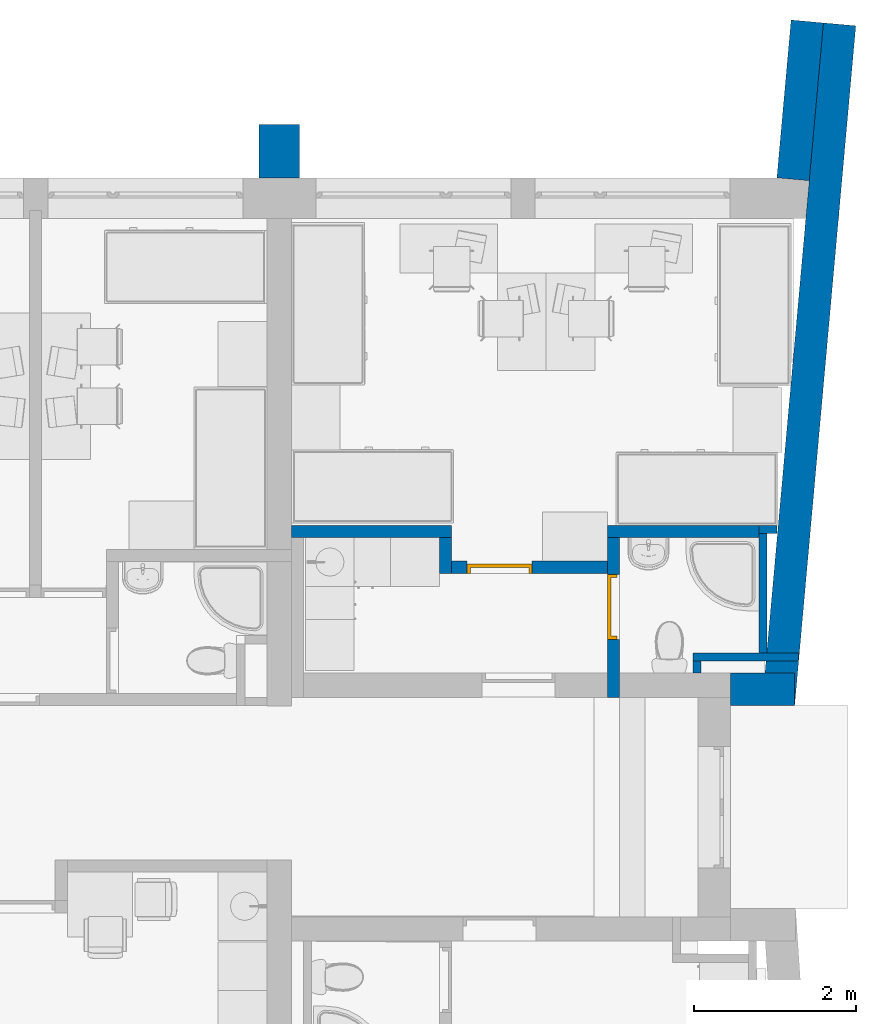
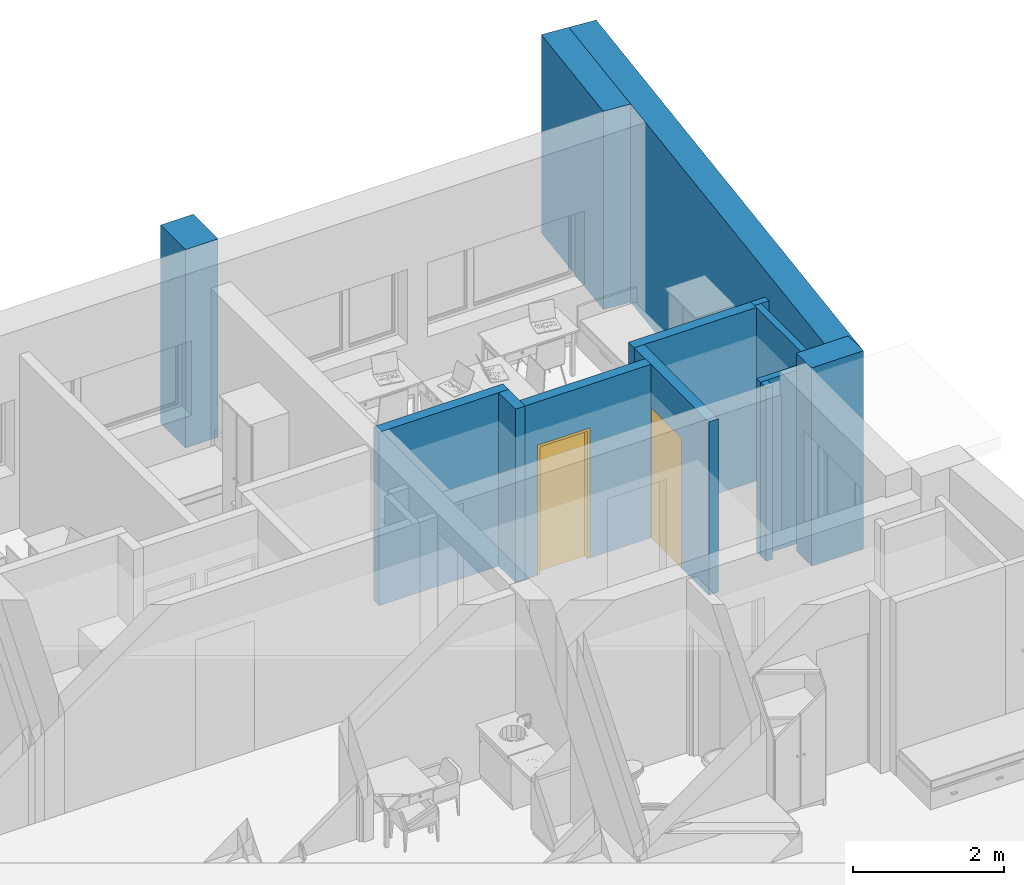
# One storey, part 20 of 165: 13 walls, 2 doors, 2 openings.
"""IFC2X3 building model written with IfcOpenShell, lengths in millimetres."""

from ifc_helpers import new_model, entity, si_unit, converted_unit, money_unit, direction, frame, origin_with_axes, place, context, subcontext, project, spatial, polyline, outline, extrude, faceted_brep, source, transform, mapped, material, material_list, layer, layer_set, layer_usage, type_object, element, fill, save


model = new_model("IFC2X3")

# Units and contexts
model_context = context("Model", 3, precision=1e-05, world=origin_with_axes(), true_north=direction((0.0, 1.0)))
body_context = subcontext(model_context, "Body", "Model", "MODEL_VIEW")
ifc_project = project(units=[si_unit("LENGTHUNIT", "METRE", prefix="MILLI"), si_unit("AREAUNIT", "SQUARE_METRE"), si_unit("VOLUMEUNIT", "CUBIC_METRE"), converted_unit("PLANEANGLEUNIT", "DEGREE", entity("IfcPlaneAngleMeasure", 0.0174532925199), si_unit("PLANEANGLEUNIT", "RADIAN"), dimensions=[0, 0, 0, 0, 0, 0, 0]), si_unit("SOLIDANGLEUNIT", "STERADIAN"), money_unit("USD"), converted_unit("TIMEUNIT", "Year", entity("IfcTimeMeasure", 31556926.0), si_unit("TIMEUNIT", "SECOND"), dimensions=[0, 0, 0, 0, 0, 0, 0]), si_unit("MASSUNIT", "GRAM"), si_unit("THERMODYNAMICTEMPERATUREUNIT", "DEGREE_CELSIUS"), si_unit("LUMINOUSINTENSITYUNIT", "LUMEN")], contexts=[model_context])

# Site, building, storey
site_placement = place(None, origin_with_axes())
site = spatial("IfcSite", under=ifc_project, at=site_placement, Name="Site", CompositionType="ELEMENT")
building_placement = place(site_placement, origin_with_axes())
building = spatial("IfcBuilding", under=site, at=building_placement, Name="Building", CompositionType="ELEMENT")
storey_placement = place(building_placement, frame((0.0, 0.0, 6300.0), z_axis=(0.0, 0.0, 1.0), x_axis=(1.0, 0.0, 0.0)))
storey = spatial("IfcBuildingStorey", under=building, at=storey_placement, Name="4KORRUS", CompositionType="ELEMENT", Elevation=6300.0)

# Walls
ifc_material_1 = material(Name="Olemasolevad seinad tellis, uus viimistlus")
ifc_layer_1 = layer(ifc_material_1, 400.0, ventilated="UNKNOWN")
ifc_layer_set_1 = layer_set([ifc_layer_1], Name="Olemasolevad seinad tellis, uus viimistlus 400")
ifc_layer_usage_1 = layer_usage(ifc_layer_set_1, "AXIS2", "POSITIVE", -400.0)
wall_type_1 = type_object("IfcWallType", Name="Olemasolevad seinad tellis, uus viimistlus 400", PredefinedType="NOTDEFINED")
wall_1_placement = place(storey_placement, frame((17988.7454058, -4639.6041088, 0.0), z_axis=(0.0, 0.0, 1.0), x_axis=(0.0895981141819, 0.995978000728, 0.0)))
element("IfcWallStandardCase", 1, at=wall_1_placement, inside=storey, type_object=wall_type_1, material=ifc_layer_usage_1, Name="VS1", ObjectType="VS1", context=body_context, shape_type="SweptSolid", body=[
    extrude(outline(polyline([(0.0, -400.0), (1950.69331637, -400.0), (1950.69331637, 0.0), (0.0, 0.0), (0.0, -400.0)])), origin_with_axes(), (0.0, 0.0, 1.0), 3200.0),
])
ifc_layer_usage_2 = layer_usage(ifc_layer_set_1, "AXIS2", "POSITIVE", 0.0)
wall_2_placement = place(storey_placement, frame((18207.2364344, -11139.6041088, 0.0), z_axis=(0.0, 0.0, 1.0), x_axis=(0.0895981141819, 0.995978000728, 0.0)))
element("IfcWallStandardCase", 2, at=wall_2_placement, inside=storey, type_object=wall_type_1, material=ifc_layer_usage_2, Name="VS1", ObjectType="VS1", context=body_context, shape_type="SweptSolid", body=[
    extrude(outline(polyline([(0.0, 0.0), (8404.97393698, 0.0), (8404.97393698, 400.0), (0.0, 400.0), (0.0, 0.0)])), origin_with_axes(), (0.0, 0.0, 1.0), 3200.0),
])
ifc_layer_usage_3 = layer_usage(ifc_layer_set_1, "AXIS2", "POSITIVE", -400.0)
wall_3_placement = place(storey_placement, frame((18207.2364344, -11139.6041088, 0.0), z_axis=(0.0, 0.0, 1.0), x_axis=(-1.0, 0.0, 0.0)))
element("IfcWallStandardCase", 3, at=wall_3_placement, inside=storey, type_object=wall_type_1, material=ifc_layer_usage_3, Name="VS1", ObjectType="VS1", context=body_context, shape_type="SweptSolid", body=[
    extrude(outline(polyline([(0.0, -400.0), (792.056464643, -400.0), (792.056464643, 0.0), (0.0, 0.0), (0.0, -400.0)])), origin_with_axes(), (0.0, 0.0, 1.0), 3200.0),
])
ifc_layer_2 = layer(ifc_material_1, 500.0, ventilated="UNKNOWN")
ifc_layer_set_2 = layer_set([ifc_layer_2], Name="Olemasolevad seinad tellis, uus viimistlus 500")
ifc_layer_usage_4 = layer_usage(ifc_layer_set_2, "AXIS2", "POSITIVE", -100.0)
wall_type_2 = type_object("IfcWallType", Name="Olemasolevad seinad tellis, uus viimistlus 500", PredefinedType="NOTDEFINED")
wall_4_placement = place(storey_placement, frame((12009.7032967, -4639.6041088, 0.0), z_axis=(0.0, 0.0, 1.0), x_axis=(0.0, 1.0, 0.0)))
element("IfcWallStandardCase", 4, at=wall_4_placement, inside=storey, type_object=wall_type_2, material=ifc_layer_usage_4, Name="VS1", ObjectType="VS1", context=body_context, shape_type="SweptSolid", body=[
    extrude(outline(polyline([(0.0, -100.0), (657.402041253, -100.0), (657.402041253, 400.0), (0.0, 400.0), (0.0, -100.0)])), origin_with_axes(), (0.0, 0.0, 1.0), 3200.0),
])

# Wall, opening, door
ifc_material_2 = material(Name="UmbKipsplaat")
ifc_layer_3 = layer(ifc_material_2, 13.0, ventilated="UNKNOWN")
ifc_layer_4 = layer(ifc_material_2, 13.0, ventilated="UNKNOWN")
ifc_material_3 = material(Name="SOOJUSTUS MINERAALVILL")
ifc_layer_5 = layer(ifc_material_3, 98.0, ventilated="UNKNOWN")
ifc_layer_6 = layer(ifc_material_2, 13.0, ventilated="UNKNOWN")
ifc_layer_7 = layer(ifc_material_2, 13.0, ventilated="UNKNOWN")
ifc_layer_set_3 = layer_set([ifc_layer_3, ifc_layer_4, ifc_layer_5, ifc_layer_6, ifc_layer_7], Name="kipssein150")
ifc_layer_usage_5 = layer_usage(ifc_layer_set_3, "AXIS2", "POSITIVE", 0.0)
wall_type_3 = type_object("IfcWallType", Name="kipssein150 150", PredefinedType="NOTDEFINED")
wall_5_placement = place(storey_placement, frame((13984.2564771, -9509.88464344, 0.0), z_axis=(0.0, 0.0, 1.0), x_axis=(1.0, 0.0, 0.0)))
wall_5 = element("IfcWallStandardCase", 5, at=wall_5_placement, inside=storey, type_object=wall_type_3, material=ifc_layer_usage_5, Name="SS1", ObjectType="SS1", context=body_context, shape_type="SweptSolid", body=[
    extrude(outline(polyline([(0.0, 0.0), (1919.61737332, 0.0), (1919.61737332, 150.0), (0.0, 150.0), (0.0, 0.0)])), origin_with_axes(), (0.0, 0.0, 1.0), 2800.0),
])
opening_1_placement = place(wall_5_placement, frame((589.799174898, 0.0, 0.0), z_axis=(0.0, 0.0, 1.0), x_axis=(1.0, 0.0, 0.0)))
opening_1 = element("IfcOpeningElement", 6, at=opening_1_placement, cuts=wall_5, Name="SU3-4", context=body_context, shape_type="SweptSolid", body=[
    extrude(outline(polyline([(-400.0, 0.0), (400.0, 0.0), (400.0, 2100.0), (-400.0, 2100.0), (-400.0, 0.0)])), frame((0.0, 150.0, 0.0), z_axis=(0.0, -1.0, 0.0), x_axis=(1.0, 0.0, 0.0)), (0.0, 0.0, 1.0), 450.0),
])
ifc_material_4 = material(Name="Background")
ifc_material_list = material_list([ifc_material_4])
door_style_1 = type_object("IfcDoorStyle", Name="Door 19", ConstructionType="NOTDEFINED", OperationType="SINGLE_SWING_RIGHT", ParameterTakesPrecedence=False, Sizeable=False)
shared_shape_1 = source(origin_with_axes(), body_context, "Body", "Brep", [
    faceted_brep([(-360.0, -75.0, 0.0), (-360.0, -75.0, 2060.0), (-360.0, -150.0, 2060.0), (-360.0, -150.0, 0.0), (-372.0, -75.0, 2060.0), (-372.0, -75.0, 0.0), (-372.0, -35.0, 2060.0), (-400.0, -35.0, 2060.0), (-400.0, -150.0, 2060.0), (-400.0, -150.0, 0.0), (-400.0, -35.0, 0.0), (-372.0, -35.0, 0.0)], [[[0, 1, 2, 3]], [[4, 1, 0, 5]], [[4, 6, 7, 8, 2, 1]], [[2, 8, 9, 3]], [[5, 0, 3, 9, 10, 11]], [[6, 4, 5, 11]], [[6, 11, 10, 7]], [[9, 8, 7, 10]]]),
    faceted_brep([(372.0, -75.0, 2060.0), (360.0, -75.0, 2060.0), (360.0, -150.0, 2060.0), (400.0, -150.0, 2060.0), (400.0, -35.0, 2060.0), (372.0, -35.0, 2060.0), (372.0, -75.0, 0.0), (360.0, -75.0, 0.0), (360.0, -150.0, 0.0), (400.0, -150.0, 0.0), (400.0, -35.0, 0.0), (372.0, -35.0, 0.0)], [[[0, 1, 2, 3, 4, 5]], [[1, 0, 6, 7]], [[1, 7, 8, 2]], [[2, 8, 9, 3]], [[3, 9, 10, 4]], [[11, 5, 4, 10]], [[0, 5, 11, 6]], [[6, 11, 10, 9, 8, 7]]]),
    faceted_brep([(-372.0, -35.0, 2072.0), (-372.0, -35.0, 2060.0), (-400.0, -35.0, 2060.0), (-400.0, -35.0, 2100.0), (400.0, -35.0, 2100.0), (400.0, -35.0, 2060.0), (372.0, -35.0, 2060.0), (372.0, -35.0, 2072.0), (-372.0, -75.0, 2072.0), (-372.0, -75.0, 2060.0), (-360.0, -75.0, 2060.0), (-360.0, -150.0, 2060.0), (-400.0, -150.0, 2060.0), (-400.0, -150.0, 2100.0), (400.0, -150.0, 2100.0), (400.0, -150.0, 2060.0), (372.0, -75.0, 2060.0), (360.0, -150.0, 2060.0), (360.0, -75.0, 2060.0), (372.0, -75.0, 2072.0)], [[[0, 1, 2, 3, 4, 5, 6, 7]], [[1, 0, 8, 9]], [[9, 10, 11, 12, 2, 1]], [[12, 13, 3, 2]], [[13, 14, 4, 3]], [[14, 15, 5, 4]], [[16, 6, 5, 15, 17, 18]], [[7, 6, 16, 19]], [[0, 7, 19, 8]], [[16, 18, 10, 9, 8, 19]], [[10, 18, 17, 11]], [[15, 14, 13, 12, 11, 17]]]),
    faceted_brep([(372.0, -35.0, 0.0), (372.0, -75.0, 0.0), (-372.0, -75.0, 0.0), (-372.0, -35.0, 0.0), (372.0, -35.0, 2072.0), (372.0, -75.0, 2072.0), (-372.0, -75.0, 2072.0), (-372.0, -35.0, 2072.0)], [[[0, 1, 2, 3]], [[4, 5, 1, 0]], [[1, 5, 6, 2]], [[3, 2, 6, 7]], [[0, 3, 7, 4]], [[7, 6, 5, 4]]]),
])
door_1_placement = place(opening_1_placement, frame((-400.0, 0.0, 0.0), z_axis=(0.0, 0.0, 1.0), x_axis=(1.0, 0.0, 0.0)))
door_1 = element("IfcDoor", 7, at=door_1_placement, inside=storey, type_object=door_style_1, material=ifc_material_list, Name="SU3-4", ObjectType="Toa uks", OverallHeight=2100.0, OverallWidth=800.0, context=body_context, shape_type="MappedRepresentation", body=[
    mapped(shared_shape_1, transform((400.0, 150.0, 0.0))),
])
fill(opening_1, door_1)

# Walls
ifc_layer_usage_6 = layer_usage(ifc_layer_set_3, "AXIS2", "POSITIVE", -150.0)
wall_6_placement = place(storey_placement, frame((13984.2564771, -9069.3690093, 0.0), z_axis=(0.0, 0.0, 1.0), x_axis=(-1.0, 0.0, 0.0)))
element("IfcWallStandardCase", 8, at=wall_6_placement, inside=storey, type_object=wall_type_3, material=ifc_layer_usage_6, Name="SS1", ObjectType="SS1", context=body_context, shape_type="SweptSolid", body=[
    extrude(outline(polyline([(0.0, -150.0), (1974.55318041, -150.0), (1974.55318041, 0.0), (0.0, 0.0), (0.0, -150.0)])), origin_with_axes(), (0.0, 0.0, 1.0), 2800.0),
])
ifc_layer_usage_7 = layer_usage(ifc_layer_set_3, "AXIS2", "POSITIVE", 0.0)
wall_7_placement = place(storey_placement, frame((15903.8738504, -9070.3690093, 0.0), z_axis=(0.0, 0.0, 1.0), x_axis=(1.0, 0.0, 0.0)))
element("IfcWallStandardCase", 9, at=wall_7_placement, inside=storey, type_object=wall_type_3, material=ifc_layer_usage_7, Name="SS1", ObjectType="SS1", context=body_context, shape_type="SweptSolid", body=[
    extrude(outline(polyline([(0.0, 0.0), (1862.68826182, 0.0), (1862.68826182, 150.0), (0.0, 150.0), (0.0, 0.0)])), origin_with_axes(), (0.0, 0.0, 1.0), 2800.0),
])

# Wall, opening, door
ifc_layer_usage_8 = layer_usage(ifc_layer_set_3, "AXIS2", "POSITIVE", 0.0)
wall_8_placement = place(storey_placement, frame((15903.8738504, -8933.3690093, 0.0), z_axis=(0.0, 0.0, 1.0), x_axis=(0.0, -1.0, 0.0)))
wall_8 = element("IfcWallStandardCase", 10, at=wall_8_placement, inside=storey, type_object=wall_type_3, material=ifc_layer_usage_8, Name="SS1", ObjectType="SS1", context=body_context, shape_type="SweptSolid", body=[
    extrude(outline(polyline([(0.0, 0.0), (2106.2350995, 0.0), (2106.2350995, 150.0), (0.0, 150.0), (0.0, 0.0)])), origin_with_axes(), (0.0, 0.0, 1.0), 2800.0),
])
opening_2_placement = place(wall_8_placement, frame((987.911387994, 0.0, 0.0), z_axis=(0.0, 0.0, 1.0), x_axis=(1.0, 0.0, 0.0)))
opening_2 = element("IfcOpeningElement", 11, at=opening_2_placement, cuts=wall_8, Name="SU3-3", context=body_context, shape_type="SweptSolid", body=[
    extrude(outline(polyline([(-400.0, -2100.0), (400.0, -2100.0), (400.0, 0.0), (-400.0, 0.0), (-400.0, -2100.0)])), frame((0.0, 150.0, 0.0), z_axis=(0.0, 1.0, 0.0), x_axis=(1.0, 0.0, 0.0)), (0.0, 0.0, -1.0), 450.0),
])
door_style_2 = type_object("IfcDoorStyle", Name="Door 19", ConstructionType="NOTDEFINED", OperationType="SINGLE_SWING_LEFT", ParameterTakesPrecedence=False, Sizeable=False)
shared_shape_2 = source(origin_with_axes(), body_context, "Body", "Brep", [
    faceted_brep([(360.0, -40.0, 0.0), (360.0, -115.0, 0.0), (360.0, -115.0, 2060.0), (360.0, -40.0, 2060.0), (372.0, -40.0, 0.0), (372.0, 0.0, 0.0), (400.0, 0.0, 0.0), (400.0, -115.0, 0.0), (400.0, -115.0, 2060.0), (372.0, -40.0, 2060.0), (400.0, 0.0, 2060.0), (372.0, 0.0, 2060.0)], [[[0, 1, 2, 3]], [[4, 5, 6, 7, 1, 0]], [[2, 1, 7, 8]], [[9, 3, 2, 8, 10, 11]], [[9, 4, 0, 3]], [[11, 5, 4, 9]], [[11, 10, 6, 5]], [[7, 6, 10, 8]]]),
    faceted_brep([(-372.0, -40.0, 2060.0), (-372.0, 0.0, 2060.0), (-400.0, 0.0, 2060.0), (-400.0, -115.0, 2060.0), (-360.0, -115.0, 2060.0), (-360.0, -40.0, 2060.0), (-372.0, -40.0, 0.0), (-372.0, 0.0, 0.0), (-400.0, 0.0, 0.0), (-400.0, -115.0, 0.0), (-360.0, -115.0, 0.0), (-360.0, -40.0, 0.0)], [[[0, 1, 2, 3, 4, 5]], [[0, 6, 7, 1]], [[7, 8, 2, 1]], [[3, 2, 8, 9]], [[4, 3, 9, 10]], [[5, 4, 10, 11]], [[5, 11, 6, 0]], [[6, 11, 10, 9, 8, 7]]]),
    faceted_brep([(372.0, 0.0, 2072.0), (-372.0, 0.0, 2072.0), (-372.0, 0.0, 2060.0), (-400.0, 0.0, 2060.0), (-400.0, 0.0, 2100.0), (400.0, 0.0, 2100.0), (400.0, 0.0, 2060.0), (372.0, 0.0, 2060.0), (372.0, -40.0, 2072.0), (-372.0, -40.0, 2072.0), (-372.0, -40.0, 2060.0), (-360.0, -40.0, 2060.0), (-360.0, -115.0, 2060.0), (-400.0, -115.0, 2060.0), (-400.0, -115.0, 2100.0), (400.0, -115.0, 2100.0), (400.0, -115.0, 2060.0), (372.0, -40.0, 2060.0), (360.0, -115.0, 2060.0), (360.0, -40.0, 2060.0)], [[[0, 1, 2, 3, 4, 5, 6, 7]], [[0, 8, 9, 1]], [[1, 9, 10, 2]], [[10, 11, 12, 13, 3, 2]], [[14, 4, 3, 13]], [[15, 5, 4, 14]], [[16, 6, 5, 15]], [[17, 7, 6, 16, 18, 19]], [[7, 17, 8, 0]], [[10, 9, 8, 17, 19, 11]], [[19, 18, 12, 11]], [[13, 12, 18, 16, 15, 14]]]),
    faceted_brep([(-372.0, 0.0, 0.0), (372.0, 0.0, 0.0), (372.0, -40.0, 0.0), (-372.0, -40.0, 0.0), (-372.0, 0.0, 2072.0), (372.0, 0.0, 2072.0), (372.0, -40.0, 2072.0), (-372.0, -40.0, 2072.0)], [[[0, 1, 2, 3]], [[0, 4, 5, 1]], [[1, 5, 6, 2]], [[3, 2, 6, 7]], [[4, 0, 3, 7]], [[5, 4, 7, 6]]]),
])
door_2_placement = place(opening_2_placement, frame((400.0, 0.0, 0.0), z_axis=(0.0, 0.0, 1.0), x_axis=(-1.0, 0.0, 0.0)))
door_2 = element("IfcDoor", 12, at=door_2_placement, inside=storey, type_object=door_style_2, material=ifc_material_list, Name="SU3-3", ObjectType="WC-uks", OverallHeight=2100.0, OverallWidth=800.0, context=body_context, shape_type="MappedRepresentation", body=[
    mapped(shared_shape_2, transform((400.0, 0.0, 0.0))),
])
fill(opening_2, door_2)

# Walls
ifc_layer_usage_9 = layer_usage(ifc_layer_set_3, "AXIS2", "POSITIVE", -150.0)
wall_9_placement = place(storey_placement, frame((13984.2564771, -9069.3690093, 0.0), z_axis=(0.0, 0.0, 1.0), x_axis=(0.0, -1.0, 0.0)))
element("IfcWallStandardCase", 13, at=wall_9_placement, inside=storey, type_object=wall_type_3, material=ifc_layer_usage_9, Name="SS1", ObjectType="SS1", context=body_context, shape_type="SweptSolid", body=[
    extrude(outline(polyline([(0.0, -150.0), (440.515634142, -150.0), (440.515634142, 0.0), (0.0, 0.0), (0.0, -150.0)])), origin_with_axes(), (0.0, 0.0, 1.0), 2800.0),
])
ifc_material_5 = material(Name="krohv")
ifc_layer_8 = layer(ifc_material_5, 2.0, ventilated="UNKNOWN")
ifc_layer_9 = layer(ifc_material_5, 10.0, ventilated="UNKNOWN")
ifc_material_6 = material(Name="Kergplokk")
ifc_layer_10 = layer(ifc_material_6, 76.0, ventilated="UNKNOWN")
ifc_layer_11 = layer(ifc_material_5, 10.0, ventilated="UNKNOWN")
ifc_layer_12 = layer(ifc_material_5, 2.0, ventilated="UNKNOWN")
ifc_layer_set_4 = layer_set([ifc_layer_8, ifc_layer_9, ifc_layer_10, ifc_layer_11, ifc_layer_12], Name="Kergplokk Bauroc 100")
ifc_layer_usage_10 = layer_usage(ifc_layer_set_4, "AXIS2", "POSITIVE", -100.0)
wall_type_4 = type_object("IfcWallType", Name="Kergplokk Bauroc 100 100", PredefinedType="NOTDEFINED")
wall_10_placement = place(storey_placement, frame((17987.2713921, -9020.3690093, 0.0), z_axis=(0.0, 0.0, 1.0), x_axis=(-1.0, 0.0, 0.0)))
element("IfcWallStandardCase", 14, at=wall_10_placement, inside=storey, type_object=wall_type_4, material=ifc_layer_usage_10, Name="SS2", ObjectType="sahtisein", context=body_context, shape_type="SweptSolid", body=[
    extrude(outline(polyline([(0.0, -100.0), (220.7092799, -100.0), (220.7092799, 0.0), (0.0, 0.0), (0.0, -100.0)])), origin_with_axes(), (0.0, 0.0, 1.0), 2800.0),
])
ifc_layer_usage_11 = layer_usage(ifc_layer_set_4, "AXIS2", "POSITIVE", -100.0)
wall_11_placement = place(storey_placement, frame((16953.7124473, -10739.6041088, 0.0), z_axis=(0.0, 0.0, 1.0), x_axis=(0.0, 1.0, 0.0)))
element("IfcWallStandardCase", 15, at=wall_11_placement, inside=storey, type_object=wall_type_4, material=ifc_layer_usage_11, Name="SS2", ObjectType="sahtisein", context=body_context, shape_type="SweptSolid", body=[
    extrude(outline(polyline([(0.0, -100.0), (150.0, -100.0), (150.0, 0.0), (0.0, 0.0), (0.0, -100.0)])), origin_with_axes(), (0.0, 0.0, 1.0), 2800.0),
])
ifc_layer_usage_12 = layer_usage(ifc_layer_set_4, "AXIS2", "POSITIVE", -100.0)
wall_12_placement = place(storey_placement, frame((17766.5621122, -10589.6041088, 0.0), z_axis=(0.0, 0.0, 1.0), x_axis=(0.0, 1.0, 0.0)))
element("IfcWallStandardCase", 16, at=wall_12_placement, inside=storey, type_object=wall_type_4, material=ifc_layer_usage_12, Name="SS2", ObjectType="sahtisein", context=body_context, shape_type="SweptSolid", body=[
    extrude(outline(polyline([(0.0, -100.0), (1569.2350995, -100.0), (1569.2350995, 0.0), (0.0, 0.0), (0.0, -100.0)])), origin_with_axes(), (0.0, 0.0, 1.0), 2800.0),
])
ifc_layer_usage_13 = layer_usage(ifc_layer_set_4, "AXIS2", "POSITIVE", -100.0)
wall_13_placement = place(storey_placement, frame((18256.7143975, -10589.6041088, 0.0), z_axis=(0.0, 0.0, 1.0), x_axis=(-1.0, 0.0, 0.0)))
element("IfcWallStandardCase", 17, at=wall_13_placement, inside=storey, type_object=wall_type_4, material=ifc_layer_usage_13, Name="SS2", ObjectType="sahtisein", context=body_context, shape_type="SweptSolid", body=[
    extrude(outline(polyline([(0.0, -100.0), (1303.00195023, -100.0), (1303.00195023, 0.0), (0.0, 0.0), (0.0, -100.0)])), origin_with_axes(), (0.0, 0.0, 1.0), 2800.0),
])

save(model, "model.ifc")
